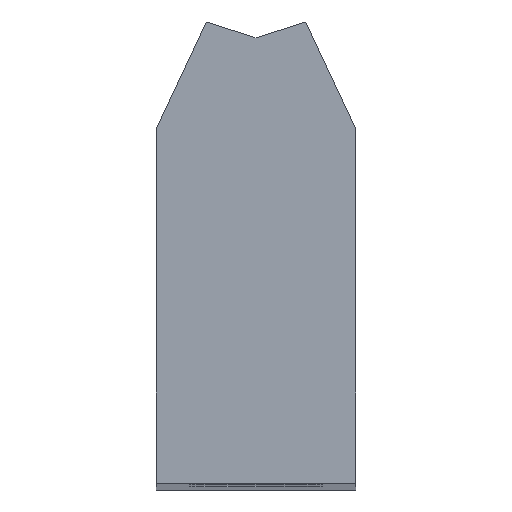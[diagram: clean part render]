
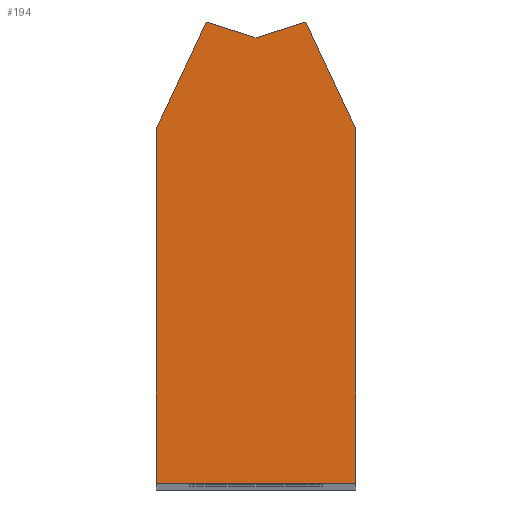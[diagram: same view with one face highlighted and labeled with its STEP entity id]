
A CAD part, top view. The second image highlights one B-rep face of the part: STEP entity #194.
In plain terms, the highlighted planar face has unit normal (0, 0, 1).
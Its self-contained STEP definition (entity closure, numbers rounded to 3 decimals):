
#1 = CARTESIAN_POINT ( 'NONE',  ( -15., 53.31, 299.75 ) ) ;
#20 = LINE ( 'NONE', #972, #670 ) ;
#41 = VERTEX_POINT ( 'NONE', #1002 ) ;
#115 = DIRECTION ( 'NONE',  ( -0.423, 0.906, 0. ) ) ;
#156 = EDGE_CURVE ( 'NONE', #261, #1577, #847, .T. ) ;
#157 = PLANE ( 'NONE',  #530 ) ;
#163 = DIRECTION ( 'NONE',  ( 0., -1., 0. ) ) ;
#174 = CARTESIAN_POINT ( 'NONE',  ( -15., 0., 299.75 ) ) ;
#194 = ADVANCED_FACE ( 'NONE', ( #1518 ), #157, .T. ) ;
#250 = CARTESIAN_POINT ( 'NONE',  ( 0., 67.029, 299.75 ) ) ;
#261 = VERTEX_POINT ( 'NONE', #562 ) ;
#269 = DIRECTION ( 'NONE',  ( 0., 1., 0. ) ) ;
#275 = VECTOR ( 'NONE', #163, 1000. ) ;
#321 = CARTESIAN_POINT ( 'NONE',  ( -7.5, 69.394, 299.75 ) ) ;
#342 = EDGE_CURVE ( 'NONE', #41, #261, #823, .T. ) ;
#355 = ORIENTED_EDGE ( 'NONE', *, *, #156, .T. ) ;
#367 = CARTESIAN_POINT ( 'NONE',  ( 15., 53.31, 299.75 ) ) ;
#378 = CARTESIAN_POINT ( 'NONE',  ( 15., 0., 299.75 ) ) ;
#445 = CARTESIAN_POINT ( 'NONE',  ( 15., 53.31, 299.75 ) ) ;
#450 = ORIENTED_EDGE ( 'NONE', *, *, #982, .T. ) ;
#507 = ORIENTED_EDGE ( 'NONE', *, *, #1511, .T. ) ;
#513 = CARTESIAN_POINT ( 'NONE',  ( 7.5, 69.394, 299.75 ) ) ;
#530 = AXIS2_PLACEMENT_3D ( 'NONE', #1089, #1675, #828 ) ;
#536 = VECTOR ( 'NONE', #768, 1000. ) ;
#562 = CARTESIAN_POINT ( 'NONE',  ( -15., 0., 299.75 ) ) ;
#598 = VERTEX_POINT ( 'NONE', #605 ) ;
#605 = CARTESIAN_POINT ( 'NONE',  ( 7.5, 69.394, 299.75 ) ) ;
#638 = ORIENTED_EDGE ( 'NONE', *, *, #342, .T. ) ;
#670 = VECTOR ( 'NONE', #269, 1000. ) ;
#740 = ORIENTED_EDGE ( 'NONE', *, *, #1784, .T. ) ;
#762 = VECTOR ( 'NONE', #777, 1000. ) ;
#768 = DIRECTION ( 'NONE',  ( -0.423, -0.906, 0. ) ) ;
#777 = DIRECTION ( 'NONE',  ( -0.954, -0.301, 0. ) ) ;
#823 = LINE ( 'NONE', #1, #275 ) ;
#828 = DIRECTION ( 'NONE',  ( 1., 0., 0. ) ) ;
#845 = EDGE_LOOP ( 'NONE', ( #1363, #450, #638, #355, #740, #507, #1154 ) ) ;
#847 = LINE ( 'NONE', #174, #1776 ) ;
#928 = LINE ( 'NONE', #367, #1302 ) ;
#972 = CARTESIAN_POINT ( 'NONE',  ( 15., 0., 299.75 ) ) ;
#982 = EDGE_CURVE ( 'NONE', #1430, #41, #1449, .T. ) ;
#1002 = CARTESIAN_POINT ( 'NONE',  ( -15., 53.31, 299.75 ) ) ;
#1089 = CARTESIAN_POINT ( 'NONE',  ( 0., 0., 299.75 ) ) ;
#1105 = EDGE_CURVE ( 'NONE', #598, #1743, #1761, .T. ) ;
#1154 = ORIENTED_EDGE ( 'NONE', *, *, #1105, .T. ) ;
#1174 = CARTESIAN_POINT ( 'NONE',  ( -7.5, 69.394, 299.75 ) ) ;
#1302 = VECTOR ( 'NONE', #115, 1000. ) ;
#1363 = ORIENTED_EDGE ( 'NONE', *, *, #1564, .T. ) ;
#1373 = CARTESIAN_POINT ( 'NONE',  ( 0., 67.029, 299.75 ) ) ;
#1389 = VERTEX_POINT ( 'NONE', #445 ) ;
#1420 = VECTOR ( 'NONE', #1479, 1000. ) ;
#1430 = VERTEX_POINT ( 'NONE', #321 ) ;
#1449 = LINE ( 'NONE', #1174, #536 ) ;
#1479 = DIRECTION ( 'NONE',  ( -0.954, 0.301, 0. ) ) ;
#1511 = EDGE_CURVE ( 'NONE', #1389, #598, #928, .T. ) ;
#1518 = FACE_OUTER_BOUND ( 'NONE', #845, .T. ) ;
#1564 = EDGE_CURVE ( 'NONE', #1743, #1430, #1768, .T. ) ;
#1577 = VERTEX_POINT ( 'NONE', #378 ) ;
#1675 = DIRECTION ( 'NONE',  ( 0., 0., 1. ) ) ;
#1743 = VERTEX_POINT ( 'NONE', #1373 ) ;
#1761 = LINE ( 'NONE', #513, #762 ) ;
#1768 = LINE ( 'NONE', #250, #1420 ) ;
#1776 = VECTOR ( 'NONE', #1806, 1000. ) ;
#1784 = EDGE_CURVE ( 'NONE', #1577, #1389, #20, .T. ) ;
#1806 = DIRECTION ( 'NONE',  ( 1., 0., 0. ) ) ;
